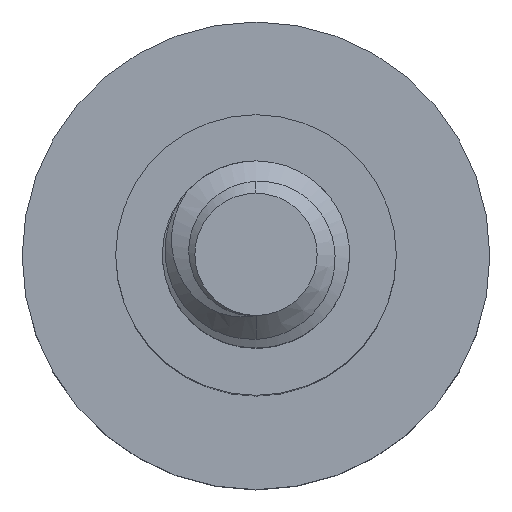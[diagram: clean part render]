
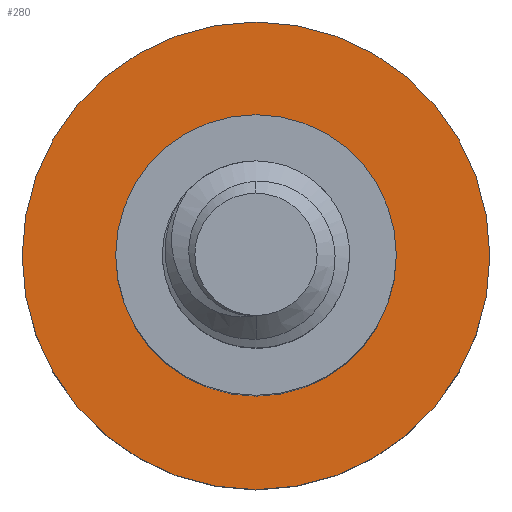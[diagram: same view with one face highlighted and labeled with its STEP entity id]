
A CAD part, top view. The second image highlights one B-rep face of the part: STEP entity #280.
In plain terms, the highlighted planar face has unit normal (0, 0, 1).
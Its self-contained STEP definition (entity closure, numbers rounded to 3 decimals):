
#102 = CARTESIAN_POINT ( 'NONE',  ( 1.5, 0., -5. ) ) ;
#236 = ORIENTED_EDGE ( 'NONE', *, *, #1011, .T. ) ;
#280 = ADVANCED_FACE ( 'NONE', ( #2203, #868 ), #1491, .F. ) ;
#357 = CIRCLE ( 'NONE', #2100, 2.5 ) ;
#475 = CARTESIAN_POINT ( 'NONE',  ( 2.5, 0., -5. ) ) ;
#507 = DIRECTION ( 'NONE',  ( 0., 0., -1. ) ) ;
#776 = EDGE_CURVE ( 'NONE', #1803, #1239, #1049, .T. ) ;
#793 = VERTEX_POINT ( 'NONE', #2350 ) ;
#868 = FACE_OUTER_BOUND ( 'NONE', #1401, .T. ) ;
#937 = DIRECTION ( 'NONE',  ( -1., 0., 0. ) ) ;
#950 = CARTESIAN_POINT ( 'NONE',  ( 0., 0., -5. ) ) ;
#969 = AXIS2_PLACEMENT_3D ( 'NONE', #950, #1472, #2420 ) ;
#1011 = EDGE_CURVE ( 'NONE', #793, #2399, #1180, .T. ) ;
#1045 = ORIENTED_EDGE ( 'NONE', *, *, #2465, .F. ) ;
#1049 = CIRCLE ( 'NONE', #969, 2.5 ) ;
#1091 = DIRECTION ( 'NONE',  ( 0., 0., -1. ) ) ;
#1180 = CIRCLE ( 'NONE', #1812, 1.5 ) ;
#1239 = VERTEX_POINT ( 'NONE', #2437 ) ;
#1302 = DIRECTION ( 'NONE',  ( 0., 0., -1. ) ) ;
#1401 = EDGE_LOOP ( 'NONE', ( #2002, #1045 ) ) ;
#1459 = CARTESIAN_POINT ( 'NONE',  ( 0., 0., -5. ) ) ;
#1472 = DIRECTION ( 'NONE',  ( 0., 0., -1. ) ) ;
#1491 = PLANE ( 'NONE',  #2177 ) ;
#1493 = DIRECTION ( 'NONE',  ( -1., 0., 0. ) ) ;
#1615 = CIRCLE ( 'NONE', #2256, 1.5 ) ;
#1636 = CARTESIAN_POINT ( 'NONE',  ( 0., 0., -5. ) ) ;
#1664 = CARTESIAN_POINT ( 'NONE',  ( 0., 0., -5. ) ) ;
#1675 = ORIENTED_EDGE ( 'NONE', *, *, #1950, .T. ) ;
#1801 = DIRECTION ( 'NONE',  ( 0., 0., -1. ) ) ;
#1803 = VERTEX_POINT ( 'NONE', #475 ) ;
#1812 = AXIS2_PLACEMENT_3D ( 'NONE', #1984, #1801, #2360 ) ;
#1950 = EDGE_CURVE ( 'NONE', #2399, #793, #1615, .T. ) ;
#1984 = CARTESIAN_POINT ( 'NONE',  ( 0., 0., -5. ) ) ;
#2002 = ORIENTED_EDGE ( 'NONE', *, *, #776, .F. ) ;
#2063 = DIRECTION ( 'NONE',  ( -1., 0., 0. ) ) ;
#2100 = AXIS2_PLACEMENT_3D ( 'NONE', #1459, #507, #1493 ) ;
#2177 = AXIS2_PLACEMENT_3D ( 'NONE', #1636, #1302, #2063 ) ;
#2203 = FACE_BOUND ( 'NONE', #2355, .T. ) ;
#2256 = AXIS2_PLACEMENT_3D ( 'NONE', #1664, #1091, #937 ) ;
#2350 = CARTESIAN_POINT ( 'NONE',  ( -1.5, 0., -5. ) ) ;
#2355 = EDGE_LOOP ( 'NONE', ( #236, #1675 ) ) ;
#2360 = DIRECTION ( 'NONE',  ( -1., 0., 0. ) ) ;
#2399 = VERTEX_POINT ( 'NONE', #102 ) ;
#2420 = DIRECTION ( 'NONE',  ( -1., 0., 0. ) ) ;
#2437 = CARTESIAN_POINT ( 'NONE',  ( -2.5, 0., -5. ) ) ;
#2465 = EDGE_CURVE ( 'NONE', #1239, #1803, #357, .T. ) ;
